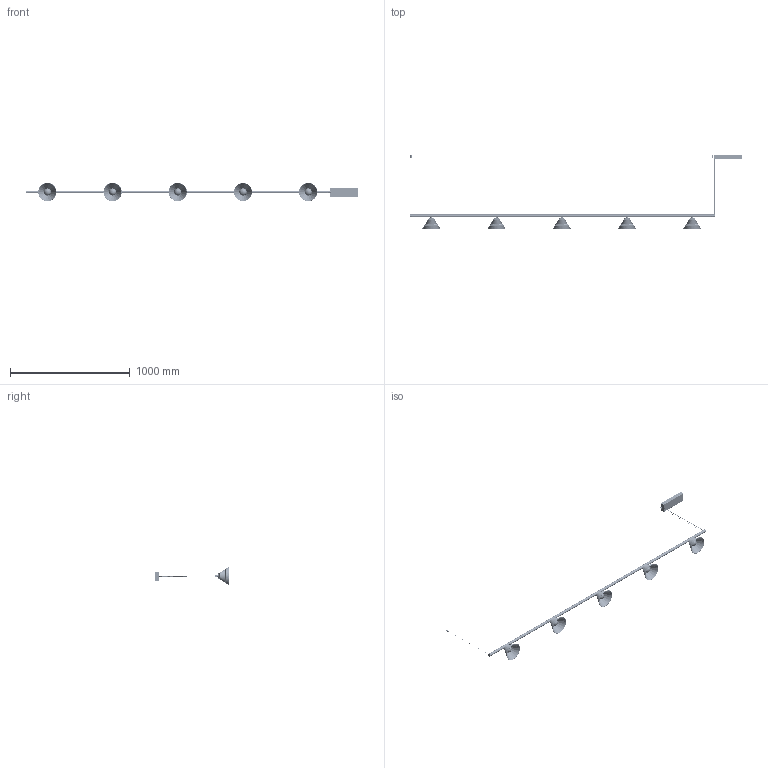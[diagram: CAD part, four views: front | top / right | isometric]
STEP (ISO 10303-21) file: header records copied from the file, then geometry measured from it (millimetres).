
FILE_DESCRIPTION (( 'STEP AP214' ), '1' );
FILE_NAME ('OVAL CONE 25 surf.STEP', '2024-03-15T13:25:20', ( '' ), ( '' ), 'SwSTEP 2.0', 'SolidWorks 2024', '' );
FILE_SCHEMA (( 'AUTOMOTIVE_DESIGN' ));
Length unit declared in the file: millimetre
Products named in the file (41): Rosca Bola_chapa galbanizada(inglass); BOLA CRISTAL OPAL MATE Ø60 CON ROSCA_60; Ensamble Conector Jack Unión_Alimentación Colgante SCPRE; Tapa Micro V5_V5.1; Difusor Negro Oval_0.1m; Ensamble Tapa + Tope_Con Conector; OVAL CONE 25 surf; Cable_VISUAL Alimentación Micro; 04-23DM03-Tope_Adaptador_1.3; CUI_DEVICES_PJ-005B_Ø2.5; Tapa Alimentación Perfil_SCPRE; Cable acero_0.5m; Driver Entity EN1689; Tapa Unión-Final V5_V5.1 Colgante Union ; Difusor Negro Oval_0.42m; 04-23DM01-Adaptador_Caja_DM01.3; CJ01-ENS_Adaptador 24V_Proyector; Perfil Micro V4_2.5m; Taco Micro_Ø10 M10*5; Ensamble Tensor Micro_Con Cable; Imán_12d*5; 04-23DM02-Adaptador_Tapa(V1.2)_24V; Tuerca Hembra Conector Jack; CJ02-BALO 60_Surface Ø60; Taco cuerpo Micro; DISIPADOR ALUMINIO BALO Bola Ø60_para bola Ø60; Jack_Scpre; Regulador Cable Ø0.6 (Bereta LT1007.0601); Remache 3 Cabeza CONICA_remachado; 04-23DM05-CAMPANA CONE(V1.1)_1; Kgp 100w-24V; Essentra Pasamuro 498025; Tija Tiny_Inyección ; Chapa Floron Micro_Techo; Bola_Ø60xT3; Tapon Tapa_2; Ensamble Floron Superficie_Colgante; Prisionero STEAB M4x4_8; Embellecedor Floron Micro_Micro Colgante; CJ03-ENS-CAMPANA CONE(V1.1)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
Assembly tree (54 placements, depth 5):
  OVAL CONE 25 surf
    Perfil Micro V4_2.5m
    CJ03-ENS-CAMPANA CONE(V1.1)  x5
      04-23DM05-CAMPANA CONE(V1.1)_1
      CJ02-BALO 60_Surface Ø60
        DISIPADOR ALUMINIO BALO Bola Ø60_para bola Ø60
        BOLA CRISTAL OPAL MATE Ø60 CON ROSCA_60
          Bola_Ø60xT3
          Rosca Bola_chapa galbanizada(inglass)
      CJ01-ENS_Adaptador 24V_Proyector
        04-23DM01-Adaptador_Caja_DM01.3
        04-23DM02-Adaptador_Tapa(V1.2)_24V
        Conector Molex Hembra 43020
        Driver Entity EN1689
        04-23DM03-Tope_Adaptador_1.3  x2
        Tija Tiny_Inyección 
    Difusor Negro Oval_0.1m  x2
    Difusor Negro Oval_0.42m  x4
    Ensamble Tapa + Tope_Con Conector  x2
      Tapa Micro V5_V5.1
      CUI_DEVICES_PJ-005B_Ø2.5
      Tuerca Hembra Conector Jack
    Ensamble Tensor Micro_Con Cable  x2
      Taco Micro_Ø10 M10*5
      Taco cuerpo Micro
      Regulador Cable Ø0.6 (Bereta LT1007.0601)
      Cable acero_0.5m
    Tapa Unión-Final V5_V5.1 Colgante Union   x2
    Ensamble Floron Superficie_Colgante
      Kgp 100w-24V
      Embellecedor Floron Micro_Micro Colgante
      Chapa Floron Micro_Techo
      Remache 3 Cabeza CONICA_remachado  x2
      Imán_12d*5  x2
      Essentra Pasamuro 498025
    Ensamble Conector Jack Unión_Alimentación Colgante SCPRE
      Cable_VISUAL Alimentación Micro
      Jack_Scpre
      Tapa Alimentación Perfil_SCPRE
      Prisionero STEAB M4x4_8
    Tapon Tapa_2
Bounding box: 2774.44 x 619.27 x 153.01 mm (x, y, z)
Volume: 1133656.9 mm3; surface area: 1340240 mm2
Topology: 98 solids, 100 shells, 10618 faces, 26601 edges, 16394 vertices
Faces by surface type: plane 3949, cylinder 2931, cone 2315, bspline 806, torus 449, sphere 168
Entity records: 162568 total; most frequent: CARTESIAN_POINT 66842, ORIENTED_EDGE 20642, DIRECTION 18719, EDGE_CURVE 10321, VERTEX_POINT 6574, LINE 6515, VECTOR 6515, AXIS2_PLACEMENT_3D 6102
